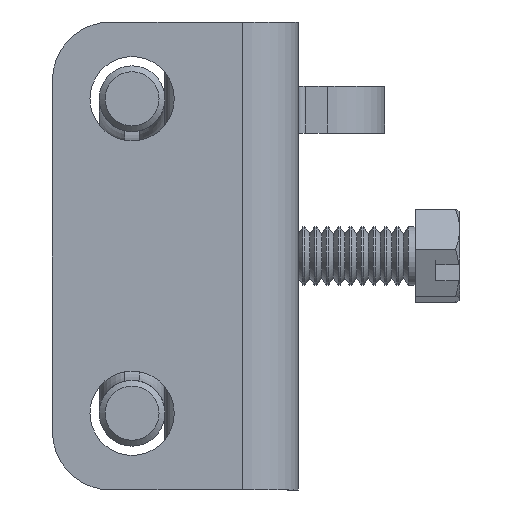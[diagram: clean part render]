
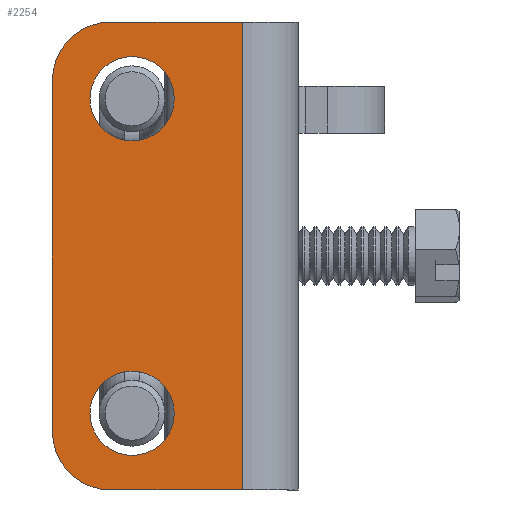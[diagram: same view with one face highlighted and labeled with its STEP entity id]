
A CAD part, front view. The second image highlights one B-rep face of the part: STEP entity #2254.
In plain terms, the highlighted planar face has unit normal (0, -1, 0).
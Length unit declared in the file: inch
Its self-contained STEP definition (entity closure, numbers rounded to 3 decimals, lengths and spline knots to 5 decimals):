
#92=FACE_BOUND('',#489,.T.);
#93=FACE_BOUND('',#490,.T.);
#116=PLANE('',#2487);
#159=CIRCLE('',#2434,0.18);
#160=CIRCLE('',#2435,0.18);
#167=CIRCLE('',#2444,0.18);
#168=CIRCLE('',#2445,0.18);
#186=CIRCLE('',#2488,0.25);
#187=CIRCLE('',#2489,0.25);
#351=FACE_OUTER_BOUND('',#488,.T.);
#488=EDGE_LOOP('',(#1644,#1645,#1646,#1647,#1648,#1649));
#489=EDGE_LOOP('',(#1650,#1651));
#490=EDGE_LOOP('',(#1652,#1653));
#673=LINE('',#3884,#818);
#675=LINE('',#3889,#820);
#680=LINE('',#3898,#825);
#681=LINE('',#3903,#826);
#818=VECTOR('',#2908,39.37008);
#820=VECTOR('',#2914,39.37008);
#825=VECTOR('',#2921,39.37008);
#826=VECTOR('',#2926,39.37008);
#922=VERTEX_POINT('',#3691);
#923=VERTEX_POINT('',#3692);
#930=VERTEX_POINT('',#3711);
#931=VERTEX_POINT('',#3712);
#974=VERTEX_POINT('',#3873);
#976=VERTEX_POINT('',#3880);
#977=VERTEX_POINT('',#3888);
#980=VERTEX_POINT('',#3896);
#981=VERTEX_POINT('',#3900);
#982=VERTEX_POINT('',#3902);
#1154=EDGE_CURVE('',#922,#923,#159,.T.);
#1155=EDGE_CURVE('',#923,#922,#160,.T.);
#1164=EDGE_CURVE('',#930,#931,#167,.T.);
#1165=EDGE_CURVE('',#931,#930,#168,.T.);
#1234=EDGE_CURVE('',#976,#974,#673,.T.);
#1236=EDGE_CURVE('',#974,#977,#675,.T.);
#1241=EDGE_CURVE('',#980,#976,#680,.T.);
#1242=EDGE_CURVE('',#980,#981,#186,.T.);
#1243=EDGE_CURVE('',#982,#981,#681,.T.);
#1244=EDGE_CURVE('',#982,#977,#187,.T.);
#1644=ORIENTED_EDGE('',*,*,#1241,.F.);
#1645=ORIENTED_EDGE('',*,*,#1242,.T.);
#1646=ORIENTED_EDGE('',*,*,#1243,.F.);
#1647=ORIENTED_EDGE('',*,*,#1244,.T.);
#1648=ORIENTED_EDGE('',*,*,#1236,.F.);
#1649=ORIENTED_EDGE('',*,*,#1234,.F.);
#1650=ORIENTED_EDGE('',*,*,#1154,.T.);
#1651=ORIENTED_EDGE('',*,*,#1155,.T.);
#1652=ORIENTED_EDGE('',*,*,#1164,.T.);
#1653=ORIENTED_EDGE('',*,*,#1165,.T.);
#2254=ADVANCED_FACE('',(#351,#92,#93),#116,.F.);
#2434=AXIS2_PLACEMENT_3D('',#3693,#2756,#2757);
#2435=AXIS2_PLACEMENT_3D('',#3694,#2758,#2759);
#2444=AXIS2_PLACEMENT_3D('',#3713,#2778,#2779);
#2445=AXIS2_PLACEMENT_3D('',#3714,#2780,#2781);
#2487=AXIS2_PLACEMENT_3D('',#3899,#2922,#2923);
#2488=AXIS2_PLACEMENT_3D('',#3901,#2924,#2925);
#2489=AXIS2_PLACEMENT_3D('',#3904,#2927,#2928);
#2756=DIRECTION('center_axis',(0.,1.,0.));
#2757=DIRECTION('ref_axis',(0.,0.,1.));
#2758=DIRECTION('center_axis',(0.,1.,0.));
#2759=DIRECTION('ref_axis',(0.,0.,1.));
#2778=DIRECTION('center_axis',(0.,1.,0.));
#2779=DIRECTION('ref_axis',(0.,0.,1.));
#2780=DIRECTION('center_axis',(0.,1.,0.));
#2781=DIRECTION('ref_axis',(0.,0.,1.));
#2908=DIRECTION('',(1.,0.,0.));
#2914=DIRECTION('',(0.,0.,-1.));
#2921=DIRECTION('',(0.,0.,1.));
#2922=DIRECTION('center_axis',(0.,1.,0.));
#2923=DIRECTION('ref_axis',(0.,0.,1.));
#2924=DIRECTION('center_axis',(0.,-1.,0.));
#2925=DIRECTION('ref_axis',(0.,0.,1.));
#2926=DIRECTION('',(-1.,0.,0.));
#2927=DIRECTION('center_axis',(0.,-1.,0.));
#2928=DIRECTION('ref_axis',(0.,0.,1.));
#3691=CARTESIAN_POINT('',(1.672,-0.1196,-0.5296));
#3692=CARTESIAN_POINT('',(1.672,-0.1196,-0.8896));
#3693=CARTESIAN_POINT('Origin',(1.672,-0.1196,-0.7096));
#3694=CARTESIAN_POINT('Origin',(1.672,-0.1196,-0.7096));
#3711=CARTESIAN_POINT('',(0.328,-0.1196,-0.5296));
#3712=CARTESIAN_POINT('',(0.328,-0.1196,-0.8896));
#3713=CARTESIAN_POINT('Origin',(0.328,-0.1196,-0.7096));
#3714=CARTESIAN_POINT('Origin',(0.328,-0.1196,-0.7096));
#3873=CARTESIAN_POINT('',(2.,-0.1196,-0.2392));
#3880=CARTESIAN_POINT('',(0.,-0.1196,-0.2392));
#3884=CARTESIAN_POINT('',(0.,-0.1196,-0.2392));
#3888=CARTESIAN_POINT('',(2.,-0.1196,-0.8));
#3889=CARTESIAN_POINT('',(2.,-0.1196,-0.1196));
#3896=CARTESIAN_POINT('',(0.,-0.1196,-0.8));
#3898=CARTESIAN_POINT('',(0.,-0.1196,-1.05));
#3899=CARTESIAN_POINT('Origin',(0.,-0.1196,0.));
#3900=CARTESIAN_POINT('',(0.25,-0.1196,-1.05));
#3901=CARTESIAN_POINT('Origin',(0.25,-0.1196,-0.8));
#3902=CARTESIAN_POINT('',(1.75,-0.1196,-1.05));
#3903=CARTESIAN_POINT('',(2.,-0.1196,-1.05));
#3904=CARTESIAN_POINT('Origin',(1.75,-0.1196,-0.8));
